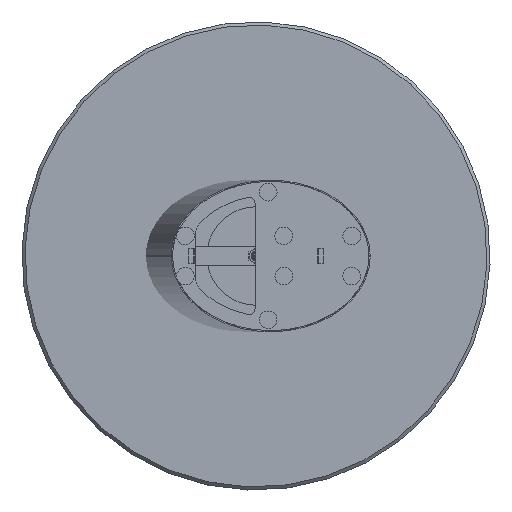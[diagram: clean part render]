
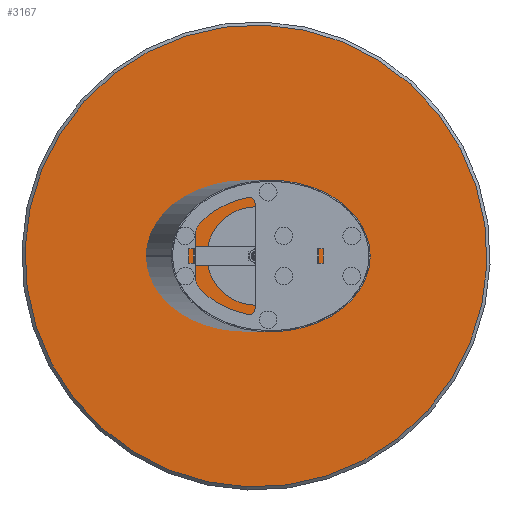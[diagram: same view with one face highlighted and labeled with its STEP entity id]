
A CAD part, front view. The second image highlights one B-rep face of the part: STEP entity #3167.
In plain terms, the highlighted planar face has unit normal (0, -1, 0).
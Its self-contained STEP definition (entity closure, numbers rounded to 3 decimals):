
#659 = DIRECTION ( 'NONE',  ( 0., 0., -1. ) ) ;
#860 = AXIS2_PLACEMENT_3D ( 'NONE', #7870, #7738, #10748 ) ;
#1748 = FACE_OUTER_BOUND ( 'NONE', #12079, .T. ) ;
#2557 = CARTESIAN_POINT ( 'NONE',  ( 0., 0., 0. ) ) ;
#3151 = ORIENTED_EDGE ( 'NONE', *, *, #10584, .T. ) ;
#3167 = ADVANCED_FACE ( 'NONE', ( #1748 ), #9764, .T. ) ;
#3214 = CIRCLE ( 'NONE', #6534, 587. ) ;
#5732 = VERTEX_POINT ( 'NONE', #10154 ) ;
#6400 = EDGE_CURVE ( 'NONE', #9822, #5732, #7945, .T. ) ;
#6534 = AXIS2_PLACEMENT_3D ( 'NONE', #7746, #8732, #11738 ) ;
#6667 = ORIENTED_EDGE ( 'NONE', *, *, #6400, .T. ) ;
#7441 = DIRECTION ( 'NONE',  ( 0., -1., 0. ) ) ;
#7738 = DIRECTION ( 'NONE',  ( 0., -1., 0. ) ) ;
#7746 = CARTESIAN_POINT ( 'NONE',  ( 0., 0., 0. ) ) ;
#7870 = CARTESIAN_POINT ( 'NONE',  ( 0., 0., 0. ) ) ;
#7945 = CIRCLE ( 'NONE', #11076, 587. ) ;
#8732 = DIRECTION ( 'NONE',  ( 0., -1., 0. ) ) ;
#9764 = PLANE ( 'NONE',  #860 ) ;
#9822 = VERTEX_POINT ( 'NONE', #10359 ) ;
#10154 = CARTESIAN_POINT ( 'NONE',  ( 0., 0., -587. ) ) ;
#10359 = CARTESIAN_POINT ( 'NONE',  ( 0., 0., 587. ) ) ;
#10584 = EDGE_CURVE ( 'NONE', #5732, #9822, #3214, .T. ) ;
#10748 = DIRECTION ( 'NONE',  ( 0., 0., -1. ) ) ;
#11076 = AXIS2_PLACEMENT_3D ( 'NONE', #2557, #7441, #659 ) ;
#11738 = DIRECTION ( 'NONE',  ( 0., 0., -1. ) ) ;
#12079 = EDGE_LOOP ( 'NONE', ( #6667, #3151 ) ) ;
